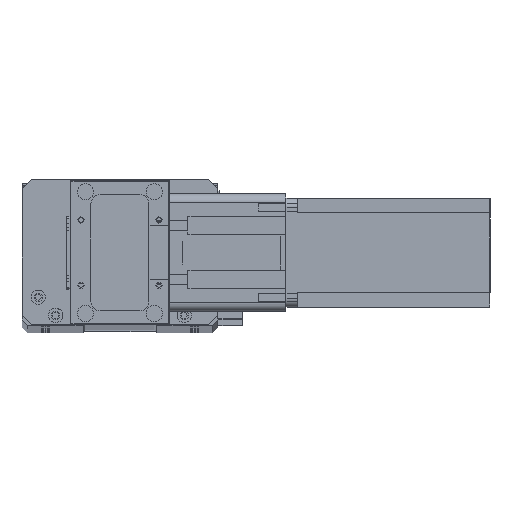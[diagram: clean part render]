
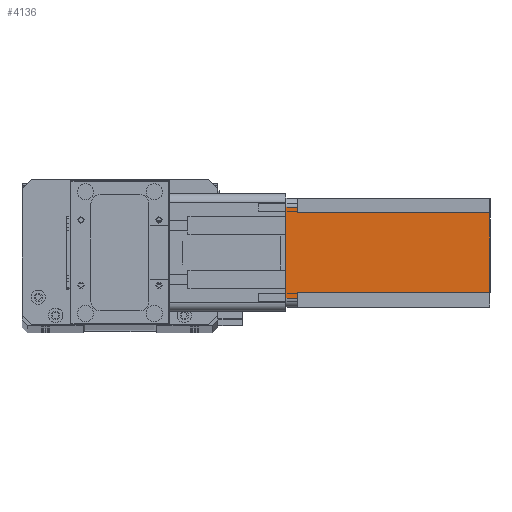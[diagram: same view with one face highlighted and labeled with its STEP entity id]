
A CAD part, top view. The second image highlights one B-rep face of the part: STEP entity #4136.
In plain terms, the highlighted planar face has unit normal (0, 0, 1) as drawn and (0, 1, 0) by its records, which use the part's own axes.
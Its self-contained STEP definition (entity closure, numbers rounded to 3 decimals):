
#776 = LINE ( 'NONE', #1589, #24090 ) ;
#913 = VERTEX_POINT ( 'NONE', #22959 ) ;
#1391 = AXIS2_PLACEMENT_3D ( 'NONE', #16839, #28638, #14688 ) ;
#1471 = LINE ( 'NONE', #18511, #19289 ) ;
#1490 = LINE ( 'NONE', #2174, #6918 ) ;
#1589 = CARTESIAN_POINT ( 'NONE',  ( 8., 60., -112.5 ) ) ;
#1743 = LINE ( 'NONE', #3943, #24313 ) ;
#1847 = ORIENTED_EDGE ( 'NONE', *, *, #4382, .F. ) ;
#2174 = CARTESIAN_POINT ( 'NONE',  ( 52., 60., -6.5 ) ) ;
#2812 = VERTEX_POINT ( 'NONE', #15375 ) ;
#3199 = EDGE_CURVE ( 'NONE', #23537, #23569, #26596, .T. ) ;
#3406 = VERTEX_POINT ( 'NONE', #4873 ) ;
#3943 = CARTESIAN_POINT ( 'NONE',  ( 5., 60., -112.5 ) ) ;
#4136 = ADVANCED_FACE ( 'NONE', ( #5421 ), #7647, .T. ) ;
#4190 = CARTESIAN_POINT ( 'NONE',  ( 52., 60., -112.5 ) ) ;
#4382 = EDGE_CURVE ( 'NONE', #15440, #23569, #1490, .T. ) ;
#4632 = ORIENTED_EDGE ( 'NONE', *, *, #19675, .T. ) ;
#4873 = CARTESIAN_POINT ( 'NONE',  ( 8., 60., -6.5 ) ) ;
#4999 = CARTESIAN_POINT ( 'NONE',  ( 55., 60., 0. ) ) ;
#5421 = FACE_OUTER_BOUND ( 'NONE', #14357, .T. ) ;
#6487 = EDGE_CURVE ( 'NONE', #24272, #2812, #1743, .T. ) ;
#6600 = LINE ( 'NONE', #23386, #23746 ) ;
#6915 = DIRECTION ( 'NONE',  ( 0., 0., 1. ) ) ;
#6918 = VECTOR ( 'NONE', #18400, 1000. ) ;
#7248 = ORIENTED_EDGE ( 'NONE', *, *, #10630, .F. ) ;
#7405 = CARTESIAN_POINT ( 'NONE',  ( 55., 60., -6.5 ) ) ;
#7647 = PLANE ( 'NONE',  #1391 ) ;
#7720 = CARTESIAN_POINT ( 'NONE',  ( 0., 60., -112.5 ) ) ;
#9534 = EDGE_CURVE ( 'NONE', #3406, #24272, #6600, .T. ) ;
#9714 = ORIENTED_EDGE ( 'NONE', *, *, #3199, .T. ) ;
#10453 = DIRECTION ( 'NONE',  ( 0., 0., -1. ) ) ;
#10630 = EDGE_CURVE ( 'NONE', #25419, #15440, #1471, .T. ) ;
#10915 = DIRECTION ( 'NONE',  ( 0., 0., 1. ) ) ;
#12664 = CARTESIAN_POINT ( 'NONE',  ( 5., 60., -6.5 ) ) ;
#13597 = ORIENTED_EDGE ( 'NONE', *, *, #6487, .T. ) ;
#13817 = VECTOR ( 'NONE', #28704, 1000. ) ;
#14175 = VECTOR ( 'NONE', #10453, 1000. ) ;
#14357 = EDGE_LOOP ( 'NONE', ( #18538, #9714, #1847, #7248, #4632, #14694, #20380, #13597 ) ) ;
#14652 = EDGE_CURVE ( 'NONE', #23537, #2812, #17195, .T. ) ;
#14688 = DIRECTION ( 'NONE',  ( 0., 0., 1. ) ) ;
#14694 = ORIENTED_EDGE ( 'NONE', *, *, #19300, .F. ) ;
#15375 = CARTESIAN_POINT ( 'NONE',  ( 5., 60., 0. ) ) ;
#15440 = VERTEX_POINT ( 'NONE', #29198 ) ;
#16839 = CARTESIAN_POINT ( 'NONE',  ( 0., 60., -112.5 ) ) ;
#17195 = LINE ( 'NONE', #23791, #28838 ) ;
#17843 = DIRECTION ( 'NONE',  ( 0., 0., -1. ) ) ;
#18400 = DIRECTION ( 'NONE',  ( 1., 0., 0. ) ) ;
#18511 = CARTESIAN_POINT ( 'NONE',  ( 52., 60., -112.5 ) ) ;
#18538 = ORIENTED_EDGE ( 'NONE', *, *, #14652, .F. ) ;
#18669 = DIRECTION ( 'NONE',  ( -1., 0., 0. ) ) ;
#19289 = VECTOR ( 'NONE', #6915, 1000. ) ;
#19300 = EDGE_CURVE ( 'NONE', #3406, #913, #776, .T. ) ;
#19675 = EDGE_CURVE ( 'NONE', #25419, #913, #20052, .T. ) ;
#20052 = LINE ( 'NONE', #7720, #13817 ) ;
#20380 = ORIENTED_EDGE ( 'NONE', *, *, #9534, .T. ) ;
#22959 = CARTESIAN_POINT ( 'NONE',  ( 8., 60., -112.5 ) ) ;
#23386 = CARTESIAN_POINT ( 'NONE',  ( 8., 60., -6.5 ) ) ;
#23537 = VERTEX_POINT ( 'NONE', #4999 ) ;
#23569 = VERTEX_POINT ( 'NONE', #7405 ) ;
#23746 = VECTOR ( 'NONE', #18669, 1000. ) ;
#23791 = CARTESIAN_POINT ( 'NONE',  ( 0., 60., 0. ) ) ;
#24090 = VECTOR ( 'NONE', #17843, 1000. ) ;
#24272 = VERTEX_POINT ( 'NONE', #12664 ) ;
#24313 = VECTOR ( 'NONE', #10915, 1000. ) ;
#25419 = VERTEX_POINT ( 'NONE', #4190 ) ;
#26108 = DIRECTION ( 'NONE',  ( -1., 0., 0. ) ) ;
#26596 = LINE ( 'NONE', #29098, #14175 ) ;
#28638 = DIRECTION ( 'NONE',  ( 0., 1., 0. ) ) ;
#28704 = DIRECTION ( 'NONE',  ( -1., 0., 0. ) ) ;
#28838 = VECTOR ( 'NONE', #26108, 1000. ) ;
#29098 = CARTESIAN_POINT ( 'NONE',  ( 55., 60., -112.5 ) ) ;
#29198 = CARTESIAN_POINT ( 'NONE',  ( 52., 60., -6.5 ) ) ;
